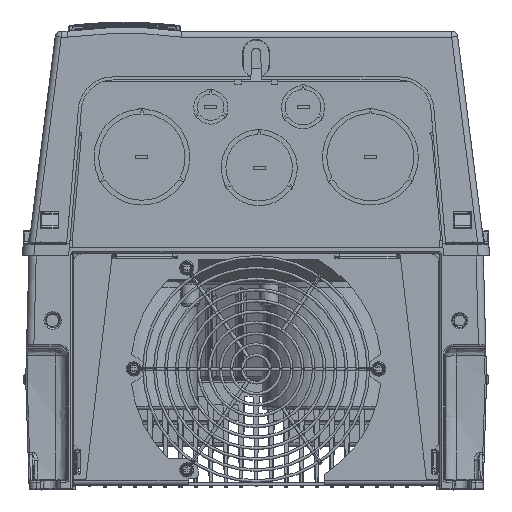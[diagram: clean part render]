
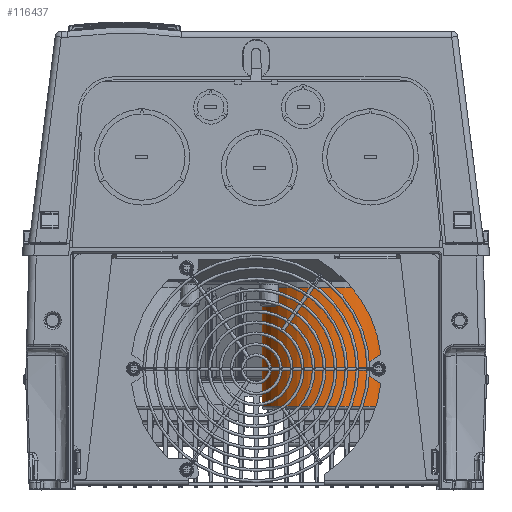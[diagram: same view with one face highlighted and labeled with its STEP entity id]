
A CAD part, front view. The second image highlights one B-rep face of the part: STEP entity #116437.
In plain terms, the highlighted cylindrical face has radius 46.1 mm (diameter 92.2 mm), a partial arc.
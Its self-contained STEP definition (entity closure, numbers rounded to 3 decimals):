
#19938=CARTESIAN_POINT('',(50.,-201.5,-104.813));
#19939=DIRECTION('',(0.,0.,1.));
#19940=DIRECTION('',(-1.,0.,0.));
#19941=AXIS2_PLACEMENT_3D('',#19938,#19939,#19940);
#19943=CARTESIAN_POINT('',(50.,-201.5,-26.2));
#19944=DIRECTION('',(0.,0.,-1.));
#19945=DIRECTION('',(0.,-1.,0.));
#19946=AXIS2_PLACEMENT_3D('',#19943,#19944,#19945);
#19948=CARTESIAN_POINT('',(50.,-201.5,-26.2));
#19949=DIRECTION('',(0.,0.,-1.));
#19950=DIRECTION('',(1.,0.,0.));
#19951=AXIS2_PLACEMENT_3D('',#19948,#19949,#19950);
#19953=DIRECTION('',(0.,0.,-1.));
#19954=VECTOR('',#19953,78.613);
#19955=CARTESIAN_POINT('',(96.1,-201.5,-26.2));
#19956=LINE('',#19955,#19954);
#19982=DIRECTION('',(0.,0.,-1.));
#19983=VECTOR('',#19982,78.613);
#19984=CARTESIAN_POINT('',(3.9,-201.5,-26.2));
#19985=LINE('',#19984,#19983);
#75674=CARTESIAN_POINT('',(96.1,-201.5,-26.2));
#75675=CARTESIAN_POINT('',(50.,-247.6,-26.2));
#75676=VERTEX_POINT('',#75674);
#75677=VERTEX_POINT('',#75675);
#75678=CARTESIAN_POINT('',(3.9,-201.5,-26.2));
#75679=VERTEX_POINT('',#75678);
#75708=CARTESIAN_POINT('',(96.1,-201.5,-104.813));
#75709=CARTESIAN_POINT('',(3.9,-201.5,-104.813));
#75710=VERTEX_POINT('',#75708);
#75711=VERTEX_POINT('',#75709);
#116421=CARTESIAN_POINT('',(50.,-201.5,3.));
#116422=DIRECTION('',(0.,0.,-1.));
#116423=DIRECTION('',(1.,0.,0.));
#116424=AXIS2_PLACEMENT_3D('',#116421,#116422,#116423);
#116425=CYLINDRICAL_SURFACE('',#116424,46.1);
#116427=ORIENTED_EDGE('',*,*,#116426,.F.);
#116429=ORIENTED_EDGE('',*,*,#116428,.F.);
#116430=ORIENTED_EDGE('',*,*,#116409,.F.);
#116432=ORIENTED_EDGE('',*,*,#116431,.F.);
#116434=ORIENTED_EDGE('',*,*,#116433,.T.);
#116435=EDGE_LOOP('',(#116427,#116429,#116430,#116432,#116434));
#116436=FACE_OUTER_BOUND('',#116435,.F.);
#19942=CIRCLE('',#19941,46.1);
#19947=CIRCLE('',#19946,46.1);
#19952=CIRCLE('',#19951,46.1);
#116409=EDGE_CURVE('',#75677,#75679,#19947,.T.);
#116426=EDGE_CURVE('',#75711,#75710,#19942,.T.);
#116428=EDGE_CURVE('',#75679,#75711,#19985,.T.);
#116431=EDGE_CURVE('',#75676,#75677,#19952,.T.);
#116433=EDGE_CURVE('',#75676,#75710,#19956,.T.);
#116437=ADVANCED_FACE('',(#116436),#116425,.T.);
